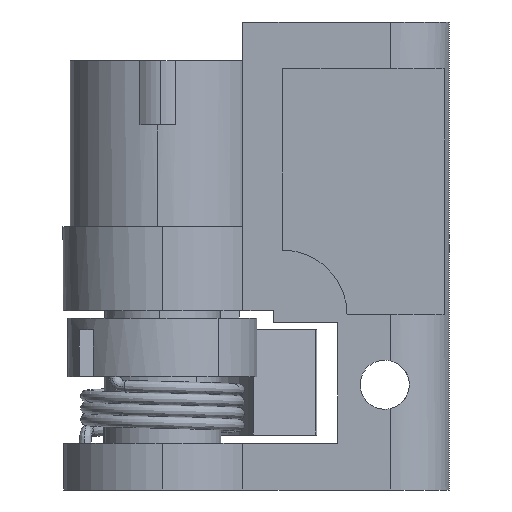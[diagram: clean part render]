
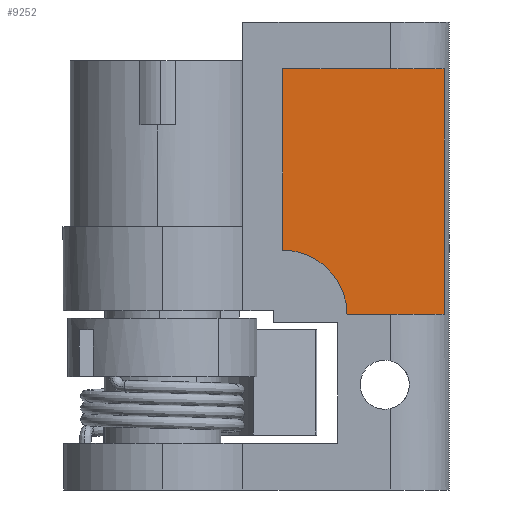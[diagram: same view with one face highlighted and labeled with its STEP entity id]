
A CAD part, left-side view. The second image highlights one B-rep face of the part: STEP entity #9252.
In plain terms, the highlighted planar face has unit normal (-1, 0, 0).
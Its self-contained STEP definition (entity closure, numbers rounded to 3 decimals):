
#308 = FACE_OUTER_BOUND ( 'NONE', #6727, .T. ) ;
#2312 = ORIENTED_EDGE ( 'NONE', *, *, #8391, .F. ) ;
#2313 = ORIENTED_EDGE ( 'NONE', *, *, #8393, .F. ) ;
#2314 = ORIENTED_EDGE ( 'NONE', *, *, #8389, .F. ) ;
#2315 = ORIENTED_EDGE ( 'NONE', *, *, #8384, .F. ) ;
#2316 = ORIENTED_EDGE ( 'NONE', *, *, #8352, .F. ) ;
#3567 = PLANE ( 'NONE',  #4842 ) ;
#3573 = CARTESIAN_POINT ( 'NONE',  ( -2., -10.282, 15. ) ) ;
#3576 = LINE ( 'NONE', #6590, #3578 ) ;
#3578 = VECTOR ( 'NONE', #6591, 1000. ) ;
#3583 = DIRECTION ( 'NONE',  ( 1., 0., 0. ) ) ;
#3585 = DIRECTION ( 'NONE',  ( 0., 0., -1. ) ) ;
#3692 = LINE ( 'NONE', #6662, #3694 ) ;
#3694 = VECTOR ( 'NONE', #6663, 1000. ) ;
#3719 = CIRCLE ( 'NONE', #8690, 5.5 ) ;
#3720 = LINE ( 'NONE', #6679, #3721 ) ;
#3721 = VECTOR ( 'NONE', #6680, 1000. ) ;
#3727 = LINE ( 'NONE', #6683, #3729 ) ;
#3729 = VECTOR ( 'NONE', #6684, 1000. ) ;
#4842 = AXIS2_PLACEMENT_3D ( 'NONE', #3573, #3583, #3585 ) ;
#5534 = VERTEX_POINT ( 'NONE', #5826 ) ;
#5538 = VERTEX_POINT ( 'NONE', #5830 ) ;
#5540 = VERTEX_POINT ( 'NONE', #5832 ) ;
#5582 = VERTEX_POINT ( 'NONE', #5874 ) ;
#5657 = VERTEX_POINT ( 'NONE', #5949 ) ;
#5826 = CARTESIAN_POINT ( 'NONE',  ( -2., -10.282, 36. ) ) ;
#5830 = CARTESIAN_POINT ( 'NONE',  ( -2., -15.782, 15. ) ) ;
#5832 = CARTESIAN_POINT ( 'NONE',  ( -2., -10.282, 20.5 ) ) ;
#5874 = CARTESIAN_POINT ( 'NONE',  ( -2., -24.083, 15. ) ) ;
#5949 = CARTESIAN_POINT ( 'NONE',  ( -2., -24.083, 36. ) ) ;
#6590 = CARTESIAN_POINT ( 'NONE',  ( -2., -24.083, 40. ) ) ;
#6591 = DIRECTION ( 'NONE',  ( 0., 0., -1. ) ) ;
#6662 = CARTESIAN_POINT ( 'NONE',  ( -2., -15.782, 15. ) ) ;
#6663 = DIRECTION ( 'NONE',  ( 0., 1., 0. ) ) ;
#6668 = CARTESIAN_POINT ( 'NONE',  ( -2., -10.282, 15. ) ) ;
#6675 = DIRECTION ( 'NONE',  ( -1., 0., 0. ) ) ;
#6676 = DIRECTION ( 'NONE',  ( 0., 0., -1. ) ) ;
#6679 = CARTESIAN_POINT ( 'NONE',  ( -2., -10.282, 36. ) ) ;
#6680 = DIRECTION ( 'NONE',  ( 0., -1., 0. ) ) ;
#6683 = CARTESIAN_POINT ( 'NONE',  ( -2., -10.282, 36. ) ) ;
#6684 = DIRECTION ( 'NONE',  ( 0., 0., 1. ) ) ;
#6727 = EDGE_LOOP ( 'NONE', ( #2312, #2313, #2314, #2315, #2316 ) ) ;
#8352 = EDGE_CURVE ( 'NONE', #5657, #5582, #3576, .T. ) ;
#8384 = EDGE_CURVE ( 'NONE', #5582, #5538, #3692, .T. ) ;
#8389 = EDGE_CURVE ( 'NONE', #5538, #5540, #3719, .T. ) ;
#8391 = EDGE_CURVE ( 'NONE', #5534, #5657, #3720, .T. ) ;
#8393 = EDGE_CURVE ( 'NONE', #5540, #5534, #3727, .T. ) ;
#8690 = AXIS2_PLACEMENT_3D ( 'NONE', #6668, #6675, #6676 ) ;
#9252 = ADVANCED_FACE ( 'NONE', ( #308 ), #3567, .F. ) ;
